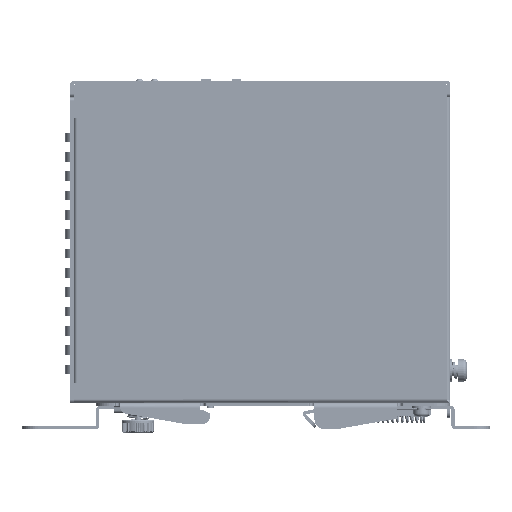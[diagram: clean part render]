
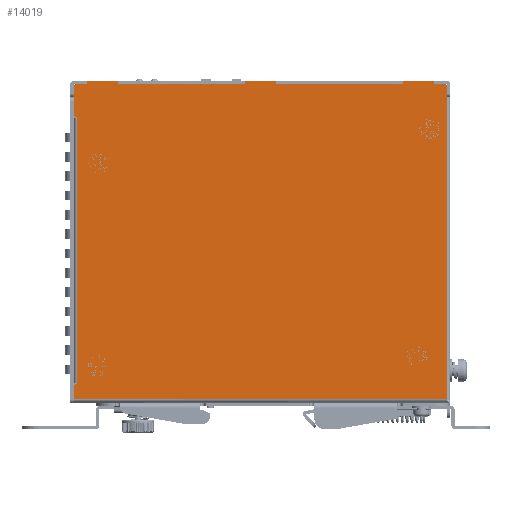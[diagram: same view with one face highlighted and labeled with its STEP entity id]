
A CAD part, left-side view. The second image highlights one B-rep face of the part: STEP entity #14019.
In plain terms, the highlighted planar face has unit normal (-1, 0, 0).
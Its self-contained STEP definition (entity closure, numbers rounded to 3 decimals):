
#120=DIRECTION('',(0.,-1.,0.));
#121=VECTOR('',#120,39.4);
#122=CARTESIAN_POINT('',(-1.,-4.8,0.));
#123=LINE('',#122,#121);
#124=DIRECTION('',(0.,0.,-1.));
#125=VECTOR('',#124,0.8);
#126=CARTESIAN_POINT('',(-1.,-44.2,0.8));
#127=LINE('',#126,#125);
#128=DIRECTION('',(0.,1.,0.));
#129=VECTOR('',#128,9.6);
#130=CARTESIAN_POINT('',(-1.,-53.8,0.8));
#131=LINE('',#130,#129);
#132=DIRECTION('',(0.,0.,1.));
#133=VECTOR('',#132,0.8);
#134=CARTESIAN_POINT('',(-1.,-53.8,0.));
#135=LINE('',#134,#133);
#136=DIRECTION('',(0.,-1.,0.));
#137=VECTOR('',#136,3.5);
#138=CARTESIAN_POINT('',(-1.,-53.8,0.));
#139=LINE('',#138,#137);
#140=CARTESIAN_POINT('',(-1.,-57.3,-0.5));
#141=DIRECTION('',(-1.,0.,0.));
#142=DIRECTION('',(0.,-1.,0.));
#143=AXIS2_PLACEMENT_3D('',#140,#141,#142);
#145=DIRECTION('',(0.,0.,-1.));
#146=VECTOR('',#145,3.7);
#147=CARTESIAN_POINT('',(-1.,-57.8,-0.5));
#148=LINE('',#147,#146);
#149=CARTESIAN_POINT('',(-1.,57.5,-93.8));
#150=DIRECTION('',(-1.,0.,0.));
#151=DIRECTION('',(0.,0.,1.));
#152=AXIS2_PLACEMENT_3D('',#149,#150,#151);
#154=DIRECTION('',(0.,-1.,0.));
#155=VECTOR('',#154,0.45);
#156=CARTESIAN_POINT('',(-1.,57.5,-93.3));
#157=LINE('',#156,#155);
#158=CARTESIAN_POINT('',(-1.,57.05,-93.05));
#159=DIRECTION('',(-1.,0.,0.));
#160=DIRECTION('',(0.,0.,-1.));
#161=AXIS2_PLACEMENT_3D('',#158,#159,#160);
#163=DIRECTION('',(0.,0.,-1.));
#164=VECTOR('',#163,0.25);
#165=CARTESIAN_POINT('',(-1.,56.8,-92.8));
#166=LINE('',#165,#164);
#167=DIRECTION('',(0.,0.,-1.));
#168=VECTOR('',#167,0.25);
#169=CARTESIAN_POINT('',(-1.,56.8,-10.45));
#170=LINE('',#169,#168);
#171=CARTESIAN_POINT('',(-1.,57.05,-10.45));
#172=DIRECTION('',(1.,0.,0.));
#173=DIRECTION('',(0.,0.,1.));
#174=AXIS2_PLACEMENT_3D('',#171,#172,#173);
#176=DIRECTION('',(0.,-1.,0.));
#177=VECTOR('',#176,0.25);
#178=CARTESIAN_POINT('',(-1.,57.3,-10.2));
#179=LINE('',#178,#177);
#180=CARTESIAN_POINT('',(-1.,57.3,-9.7));
#181=DIRECTION('',(-1.,0.,0.));
#182=DIRECTION('',(0.,1.,0.));
#183=AXIS2_PLACEMENT_3D('',#180,#181,#182);
#185=DIRECTION('',(0.,0.,1.));
#186=VECTOR('',#185,5.5);
#187=CARTESIAN_POINT('',(-1.,57.8,-9.7));
#188=LINE('',#187,#186);
#189=DIRECTION('',(0.,0.,-1.));
#190=VECTOR('',#189,3.7);
#191=CARTESIAN_POINT('',(-1.,57.8,-0.5));
#192=LINE('',#191,#190);
#193=CARTESIAN_POINT('',(-1.,57.3,-0.5));
#194=DIRECTION('',(-1.,0.,0.));
#195=DIRECTION('',(0.,0.,1.));
#196=AXIS2_PLACEMENT_3D('',#193,#194,#195);
#198=DIRECTION('',(0.,-1.,0.));
#199=VECTOR('',#198,3.5);
#200=CARTESIAN_POINT('',(-1.,57.3,0.));
#201=LINE('',#200,#199);
#202=DIRECTION('',(0.,0.,-1.));
#203=VECTOR('',#202,0.8);
#204=CARTESIAN_POINT('',(-1.,53.8,0.8));
#205=LINE('',#204,#203);
#206=DIRECTION('',(0.,1.,0.));
#207=VECTOR('',#206,9.6);
#208=CARTESIAN_POINT('',(-1.,44.2,0.8));
#209=LINE('',#208,#207);
#210=DIRECTION('',(0.,0.,1.));
#211=VECTOR('',#210,0.8);
#212=CARTESIAN_POINT('',(-1.,44.2,0.));
#213=LINE('',#212,#211);
#214=DIRECTION('',(0.,-1.,0.));
#215=VECTOR('',#214,39.4);
#216=CARTESIAN_POINT('',(-1.,44.2,0.));
#217=LINE('',#216,#215);
#218=DIRECTION('',(0.,0.,-1.));
#219=VECTOR('',#218,0.8);
#220=CARTESIAN_POINT('',(-1.,4.8,0.8));
#221=LINE('',#220,#219);
#222=DIRECTION('',(0.,1.,0.));
#223=VECTOR('',#222,9.6);
#224=CARTESIAN_POINT('',(-1.,-4.8,0.8));
#225=LINE('',#224,#223);
#226=DIRECTION('',(0.,0.,1.));
#227=VECTOR('',#226,0.8);
#228=CARTESIAN_POINT('',(-1.,-4.8,0.));
#229=LINE('',#228,#227);
#294=DIRECTION('',(0.,0.,1.));
#295=VECTOR('',#294,82.1);
#296=CARTESIAN_POINT('',(-1.,56.8,-92.8));
#297=LINE('',#296,#295);
#358=DIRECTION('',(0.,0.,-1.));
#359=VECTOR('',#358,4.);
#360=CARTESIAN_POINT('',(-1.,58.,-93.8));
#361=LINE('',#360,#359);
#396=DIRECTION('',(0.,1.,0.));
#397=VECTOR('',#396,115.8);
#398=CARTESIAN_POINT('',(-1.,-57.8,-97.8));
#399=LINE('',#398,#397);
#6919=DIRECTION('',(0.,0.,-1.));
#6920=VECTOR('',#6919,93.6);
#6921=CARTESIAN_POINT('',(-1.,-57.8,-4.2));
#6922=LINE('',#6921,#6920);
#10532=CARTESIAN_POINT('',(-1.,58.,-97.8));
#10534=VERTEX_POINT('',#10532);
#10535=CARTESIAN_POINT('',(-1.,-57.8,-97.8));
#10536=VERTEX_POINT('',#10535);
#10549=CARTESIAN_POINT('',(-1.,-57.8,-4.2));
#10550=VERTEX_POINT('',#10549);
#10579=CARTESIAN_POINT('',(-1.,57.3,0.));
#10580=VERTEX_POINT('',#10579);
#10581=CARTESIAN_POINT('',(-1.,57.8,-0.5));
#10582=VERTEX_POINT('',#10581);
#10587=CARTESIAN_POINT('',(-1.,-57.8,-0.5));
#10588=VERTEX_POINT('',#10587);
#10589=CARTESIAN_POINT('',(-1.,-57.3,0.));
#10590=VERTEX_POINT('',#10589);
#10915=CARTESIAN_POINT('',(-1.,57.05,-10.2));
#10917=VERTEX_POINT('',#10915);
#10921=CARTESIAN_POINT('',(-1.,56.8,-10.45));
#10922=VERTEX_POINT('',#10921);
#10925=CARTESIAN_POINT('',(-1.,56.8,-10.7));
#10926=VERTEX_POINT('',#10925);
#10930=CARTESIAN_POINT('',(-1.,57.05,-93.3));
#10932=VERTEX_POINT('',#10930);
#10933=CARTESIAN_POINT('',(-1.,56.8,-92.8));
#10934=VERTEX_POINT('',#10933);
#10939=CARTESIAN_POINT('',(-1.,56.8,-93.05));
#10940=VERTEX_POINT('',#10939);
#10943=CARTESIAN_POINT('',(-1.,57.8,-4.2));
#10944=VERTEX_POINT('',#10943);
#10949=CARTESIAN_POINT('',(-1.,57.8,-9.7));
#10950=VERTEX_POINT('',#10949);
#10951=CARTESIAN_POINT('',(-1.,57.3,-10.2));
#10952=VERTEX_POINT('',#10951);
#10957=CARTESIAN_POINT('',(-1.,57.5,-93.3));
#10958=VERTEX_POINT('',#10957);
#10959=CARTESIAN_POINT('',(-1.,58.,-93.8));
#10960=VERTEX_POINT('',#10959);
#13822=CARTESIAN_POINT('',(-1.,44.2,0.));
#13823=CARTESIAN_POINT('',(-1.,44.2,0.8));
#13824=VERTEX_POINT('',#13822);
#13825=VERTEX_POINT('',#13823);
#13826=CARTESIAN_POINT('',(-1.,53.8,0.8));
#13827=VERTEX_POINT('',#13826);
#13828=CARTESIAN_POINT('',(-1.,53.8,0.));
#13829=VERTEX_POINT('',#13828);
#13838=CARTESIAN_POINT('',(-1.,-4.8,0.));
#13839=CARTESIAN_POINT('',(-1.,-4.8,0.8));
#13840=VERTEX_POINT('',#13838);
#13841=VERTEX_POINT('',#13839);
#13842=CARTESIAN_POINT('',(-1.,4.8,0.8));
#13843=VERTEX_POINT('',#13842);
#13844=CARTESIAN_POINT('',(-1.,4.8,0.));
#13845=VERTEX_POINT('',#13844);
#13854=CARTESIAN_POINT('',(-1.,-53.8,0.));
#13855=CARTESIAN_POINT('',(-1.,-53.8,0.8));
#13856=VERTEX_POINT('',#13854);
#13857=VERTEX_POINT('',#13855);
#13858=CARTESIAN_POINT('',(-1.,-44.2,0.8));
#13859=VERTEX_POINT('',#13858);
#13860=CARTESIAN_POINT('',(-1.,-44.2,0.));
#13861=VERTEX_POINT('',#13860);
#13953=CARTESIAN_POINT('',(-1.,0.,0.));
#13954=DIRECTION('',(1.,0.,0.));
#13955=DIRECTION('',(0.,-1.,0.));
#13956=AXIS2_PLACEMENT_3D('',#13953,#13954,#13955);
#13957=PLANE('',#13956);
#13959=ORIENTED_EDGE('',*,*,#13958,.T.);
#13961=ORIENTED_EDGE('',*,*,#13960,.F.);
#13963=ORIENTED_EDGE('',*,*,#13962,.F.);
#13965=ORIENTED_EDGE('',*,*,#13964,.F.);
#13966=ORIENTED_EDGE('',*,*,#13943,.T.);
#13968=ORIENTED_EDGE('',*,*,#13967,.F.);
#13970=ORIENTED_EDGE('',*,*,#13969,.T.);
#13972=ORIENTED_EDGE('',*,*,#13971,.T.);
#13974=ORIENTED_EDGE('',*,*,#13973,.T.);
#13976=ORIENTED_EDGE('',*,*,#13975,.F.);
#13978=ORIENTED_EDGE('',*,*,#13977,.F.);
#13980=ORIENTED_EDGE('',*,*,#13979,.T.);
#13982=ORIENTED_EDGE('',*,*,#13981,.T.);
#13984=ORIENTED_EDGE('',*,*,#13983,.F.);
#13986=ORIENTED_EDGE('',*,*,#13985,.T.);
#13988=ORIENTED_EDGE('',*,*,#13987,.F.);
#13990=ORIENTED_EDGE('',*,*,#13989,.F.);
#13992=ORIENTED_EDGE('',*,*,#13991,.F.);
#13994=ORIENTED_EDGE('',*,*,#13993,.F.);
#13996=ORIENTED_EDGE('',*,*,#13995,.T.);
#13998=ORIENTED_EDGE('',*,*,#13997,.F.);
#14000=ORIENTED_EDGE('',*,*,#13999,.F.);
#14002=ORIENTED_EDGE('',*,*,#14001,.T.);
#14004=ORIENTED_EDGE('',*,*,#14003,.F.);
#14006=ORIENTED_EDGE('',*,*,#14005,.F.);
#14008=ORIENTED_EDGE('',*,*,#14007,.F.);
#14010=ORIENTED_EDGE('',*,*,#14009,.T.);
#14012=ORIENTED_EDGE('',*,*,#14011,.F.);
#14014=ORIENTED_EDGE('',*,*,#14013,.F.);
#14016=ORIENTED_EDGE('',*,*,#14015,.F.);
#14017=EDGE_LOOP('',(#13959,#13961,#13963,#13965,#13966,#13968,#13970,#13972,
#13974,#13976,#13978,#13980,#13982,#13984,#13986,#13988,#13990,#13992,#13994,
#13996,#13998,#14000,#14002,#14004,#14006,#14008,#14010,#14012,#14014,#14016));
#14018=FACE_OUTER_BOUND('',#14017,.F.);
#144=CIRCLE('',#143,0.5);
#153=CIRCLE('',#152,0.5);
#162=CIRCLE('',#161,0.25);
#175=CIRCLE('',#174,0.25);
#184=CIRCLE('',#183,0.5);
#197=CIRCLE('',#196,0.5);
#13943=EDGE_CURVE('',#13856,#10590,#139,.T.);
#13958=EDGE_CURVE('',#13840,#13861,#123,.T.);
#13960=EDGE_CURVE('',#13859,#13861,#127,.T.);
#13962=EDGE_CURVE('',#13857,#13859,#131,.T.);
#13964=EDGE_CURVE('',#13856,#13857,#135,.T.);
#13967=EDGE_CURVE('',#10588,#10590,#144,.T.);
#13969=EDGE_CURVE('',#10588,#10550,#148,.T.);
#13971=EDGE_CURVE('',#10550,#10536,#6922,.T.);
#13973=EDGE_CURVE('',#10536,#10534,#399,.T.);
#13975=EDGE_CURVE('',#10960,#10534,#361,.T.);
#13977=EDGE_CURVE('',#10958,#10960,#153,.T.);
#13979=EDGE_CURVE('',#10958,#10932,#157,.T.);
#13981=EDGE_CURVE('',#10932,#10940,#162,.T.);
#13983=EDGE_CURVE('',#10934,#10940,#166,.T.);
#13985=EDGE_CURVE('',#10934,#10926,#297,.T.);
#13987=EDGE_CURVE('',#10922,#10926,#170,.T.);
#13989=EDGE_CURVE('',#10917,#10922,#175,.T.);
#13991=EDGE_CURVE('',#10952,#10917,#179,.T.);
#13993=EDGE_CURVE('',#10950,#10952,#184,.T.);
#13995=EDGE_CURVE('',#10950,#10944,#188,.T.);
#13997=EDGE_CURVE('',#10582,#10944,#192,.T.);
#13999=EDGE_CURVE('',#10580,#10582,#197,.T.);
#14001=EDGE_CURVE('',#10580,#13829,#201,.T.);
#14003=EDGE_CURVE('',#13827,#13829,#205,.T.);
#14005=EDGE_CURVE('',#13825,#13827,#209,.T.);
#14007=EDGE_CURVE('',#13824,#13825,#213,.T.);
#14009=EDGE_CURVE('',#13824,#13845,#217,.T.);
#14011=EDGE_CURVE('',#13843,#13845,#221,.T.);
#14013=EDGE_CURVE('',#13841,#13843,#225,.T.);
#14015=EDGE_CURVE('',#13840,#13841,#229,.T.);
#14019=ADVANCED_FACE('',(#14018),#13957,.F.);
